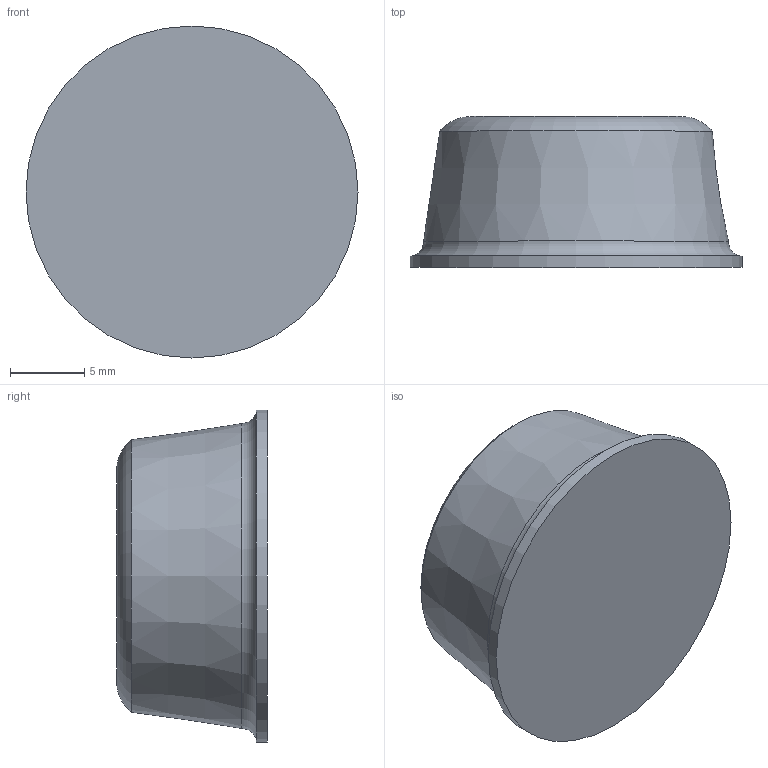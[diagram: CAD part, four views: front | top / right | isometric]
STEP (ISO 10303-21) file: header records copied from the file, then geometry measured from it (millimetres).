
FILE_DESCRIPTION(/* description */ (''),/* implementation_level */ '2;1');
FILE_NAME(/* name */ 'C:/Users/Mark/Downloads/STEP Files/BS17.step',/* time_stamp */ '2020-02-10T11:27:54-05:00',/* author */ (''),/* organization */ (''),/* preprocessor_version */ 'ST-DEVELOPER v18',/* originating_system */ 'Autodesk Translation Framework v8.12.0.6',/* authorisation */ '');
FILE_SCHEMA (('AUTOMOTIVE_DESIGN { 1 0 10303 214 3 1 1 }'));
Length unit declared in the file: inch
Products named in the file (1): BS17
Bounding box: 22.35 x 10.15 x 22.35 mm (x, y, z)
Volume: 2680.3 mm3; surface area: 1393.1 mm2
Topology: 1 solids, 1 shells, 9 faces, 26 edges, 20 vertices
Faces by surface type: torus 3, plane 3, cone 2, cylinder 1
Full cylindrical faces by diameter (mm): 22.352 x1
Entity records: 362 total; most frequent: DIRECTION 69, CARTESIAN_POINT 56, ORIENTED_EDGE 52, AXIS2_PLACEMENT_3D 33, EDGE_CURVE 26, CIRCLE 23, VERTEX_POINT 20, EDGE_LOOP 10
